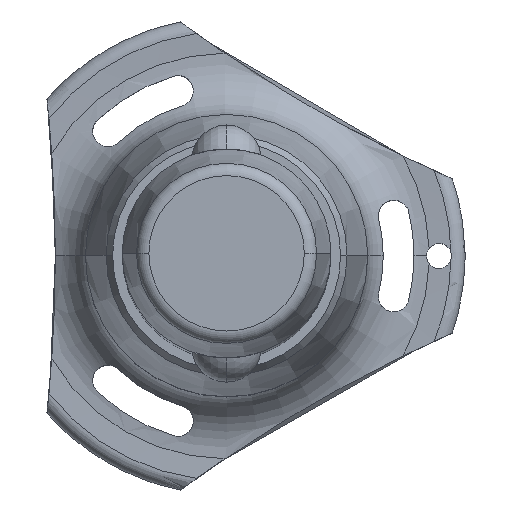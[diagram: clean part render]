
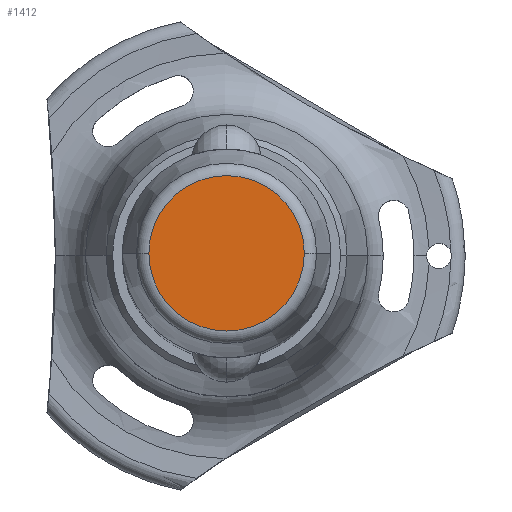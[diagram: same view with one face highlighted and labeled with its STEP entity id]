
A CAD part, top view. The second image highlights one B-rep face of the part: STEP entity #1412.
In plain terms, the highlighted planar face has unit normal (0, 0, 1).
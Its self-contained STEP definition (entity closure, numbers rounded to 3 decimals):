
#206 = CARTESIAN_POINT ( 'NONE',  ( 0., 0., 22. ) ) ;
#308 = ORIENTED_EDGE ( 'NONE', *, *, #2021, .T. ) ;
#474 = VERTEX_POINT ( 'NONE', #2092 ) ;
#815 = EDGE_LOOP ( 'NONE', ( #308, #1164 ) ) ;
#972 = VERTEX_POINT ( 'NONE', #1117 ) ;
#1037 = FACE_OUTER_BOUND ( 'NONE', #815, .T. ) ;
#1039 = CIRCLE ( 'NONE', #2705, 9.302 ) ;
#1087 = DIRECTION ( 'NONE',  ( 0., 0., 1. ) ) ;
#1117 = CARTESIAN_POINT ( 'NONE',  ( -9.302, 0., 22. ) ) ;
#1164 = ORIENTED_EDGE ( 'NONE', *, *, #2484, .T. ) ;
#1310 = PLANE ( 'NONE',  #2657 ) ;
#1412 = ADVANCED_FACE ( 'NONE', ( #1037 ), #1310, .T. ) ;
#1698 = CARTESIAN_POINT ( 'NONE',  ( 0., 0., 22. ) ) ;
#1832 = CARTESIAN_POINT ( 'NONE',  ( 0., 0., 22. ) ) ;
#1962 = DIRECTION ( 'NONE',  ( 1., 0., 0. ) ) ;
#1972 = DIRECTION ( 'NONE',  ( 0., 0., 1. ) ) ;
#2021 = EDGE_CURVE ( 'NONE', #474, #972, #1039, .T. ) ;
#2092 = CARTESIAN_POINT ( 'NONE',  ( 9.302, 0., 22. ) ) ;
#2144 = CIRCLE ( 'NONE', #2478, 9.302 ) ;
#2250 = DIRECTION ( 'NONE',  ( 0., 0., 1. ) ) ;
#2478 = AXIS2_PLACEMENT_3D ( 'NONE', #1832, #2250, #2672 ) ;
#2484 = EDGE_CURVE ( 'NONE', #972, #474, #2144, .T. ) ;
#2657 = AXIS2_PLACEMENT_3D ( 'NONE', #1698, #1972, #2862 ) ;
#2672 = DIRECTION ( 'NONE',  ( 1., 0., 0. ) ) ;
#2705 = AXIS2_PLACEMENT_3D ( 'NONE', #206, #1087, #1962 ) ;
#2862 = DIRECTION ( 'NONE',  ( 1., 0., 0. ) ) ;
